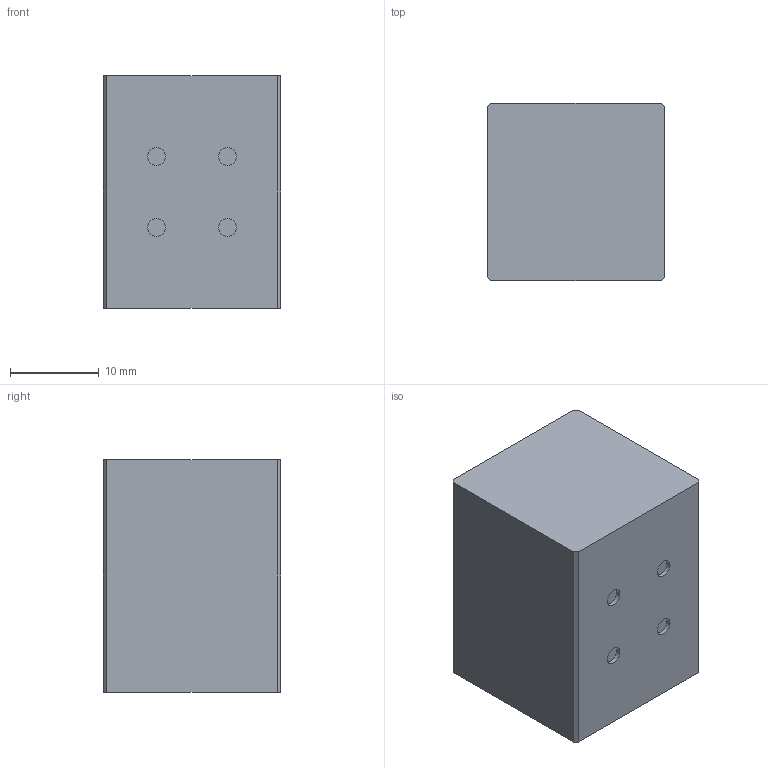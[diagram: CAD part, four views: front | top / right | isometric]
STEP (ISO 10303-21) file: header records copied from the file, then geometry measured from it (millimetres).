
FILE_DESCRIPTION(('Open CASCADE Model'),'2;1');
FILE_NAME('Open CASCADE Shape Model','2026-08-23T08:04:37',('Author'),( 'Open CASCADE'),'Open CASCADE STEP processor 7.9','Open CASCADE 7.9' ,'Unknown');
FILE_SCHEMA(('AUTOMOTIVE_DESIGN { 1 0 10303 214 1 1 1 1 }'));
Length unit declared in the file: millimetre
Products named in the file (2): =>[0:1:1:2]; COMPOUND
Assembly tree (1 placements, depth 2):
  =>[0:1:1:2]
    COMPOUND
Bounding box: 20 x 20 x 26.25 mm (x, y, z)
Volume: 10485.3 mm3; surface area: 2887.3 mm2
Topology: 1 solids, 1 shells, 18 faces, 36 edges, 24 vertices
Faces by surface type: plane 14, cylinder 4
Full cylindrical faces by diameter (mm): 2 x4
Entity records: 992 total; most frequent: CARTESIAN_POINT 176, DIRECTION 152, LINE 92, VECTOR 92, ORIENTED_EDGE 72, PCURVE 72, DEFINITIONAL_REPRESENTATION 72, EDGE_CURVE 36
